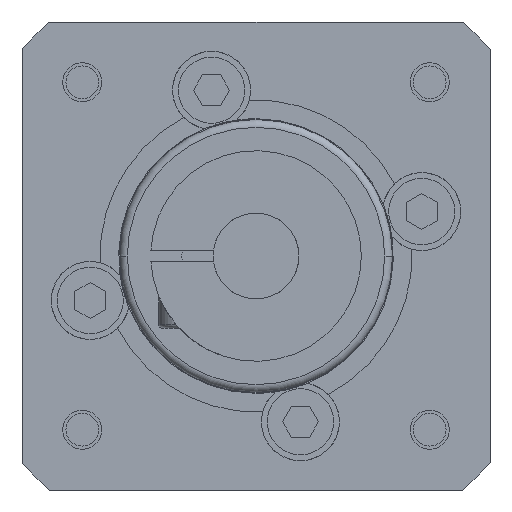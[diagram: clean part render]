
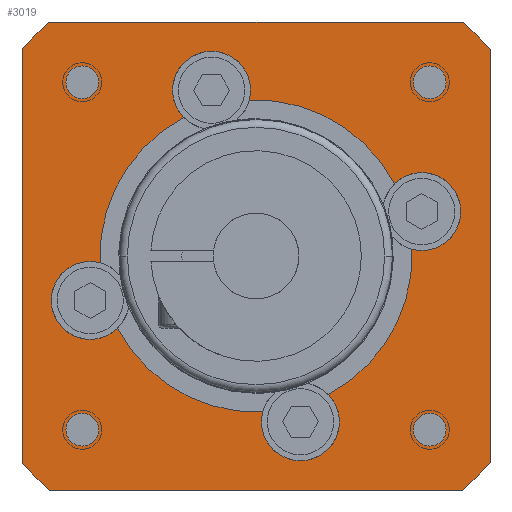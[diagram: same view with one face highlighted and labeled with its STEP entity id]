
A CAD part, left-side view. The second image highlights one B-rep face of the part: STEP entity #3019.
In plain terms, the highlighted planar face has unit normal (-1, 0, 0).
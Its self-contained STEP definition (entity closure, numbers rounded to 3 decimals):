
#23=CARTESIAN_POINT('',(0.,0.,0.));
#24=DIRECTION('',(-1.,0.,0.));
#25=DIRECTION('',(0.,-0.75,0.661));
#26=AXIS2_PLACEMENT_3D('',#23,#24,#25);
#28=DIRECTION('',(0.,0.,1.));
#29=VECTOR('',#28,52.915);
#30=CARTESIAN_POINT('',(0.,-30.,-26.458));
#31=LINE('',#30,#29);
#32=CARTESIAN_POINT('',(0.,0.,0.));
#33=DIRECTION('',(-1.,0.,0.));
#34=DIRECTION('',(0.,-0.661,-0.75));
#35=AXIS2_PLACEMENT_3D('',#32,#33,#34);
#37=DIRECTION('',(0.,-1.,0.));
#38=VECTOR('',#37,52.915);
#39=CARTESIAN_POINT('',(0.,26.458,-30.));
#40=LINE('',#39,#38);
#41=CARTESIAN_POINT('',(0.,0.,0.));
#42=DIRECTION('',(-1.,0.,0.));
#43=DIRECTION('',(0.,0.75,-0.661));
#44=AXIS2_PLACEMENT_3D('',#41,#42,#43);
#46=DIRECTION('',(0.,0.,-1.));
#47=VECTOR('',#46,52.915);
#48=CARTESIAN_POINT('',(0.,30.,26.458));
#49=LINE('',#48,#47);
#50=CARTESIAN_POINT('',(0.,0.,0.));
#51=DIRECTION('',(-1.,0.,0.));
#52=DIRECTION('',(0.,0.661,0.75));
#53=AXIS2_PLACEMENT_3D('',#50,#51,#52);
#55=DIRECTION('',(0.,1.,0.));
#56=VECTOR('',#55,52.915);
#57=CARTESIAN_POINT('',(0.,-26.458,30.));
#58=LINE('',#57,#56);
#59=CARTESIAN_POINT('',(0.,-22.274,22.274));
#60=DIRECTION('',(-1.,0.,0.));
#61=DIRECTION('',(0.,0.,-1.));
#62=AXIS2_PLACEMENT_3D('',#59,#60,#61);
#64=CARTESIAN_POINT('',(0.,-22.274,22.274));
#65=DIRECTION('',(-1.,0.,0.));
#66=DIRECTION('',(0.,0.,1.));
#67=AXIS2_PLACEMENT_3D('',#64,#65,#66);
#69=CARTESIAN_POINT('',(0.,-22.274,-22.274));
#70=DIRECTION('',(-1.,0.,0.));
#71=DIRECTION('',(0.,0.,-1.));
#72=AXIS2_PLACEMENT_3D('',#69,#70,#71);
#74=CARTESIAN_POINT('',(0.,-22.274,-22.274));
#75=DIRECTION('',(-1.,0.,0.));
#76=DIRECTION('',(0.,0.,1.));
#77=AXIS2_PLACEMENT_3D('',#74,#75,#76);
#79=CARTESIAN_POINT('',(0.,22.274,-22.274));
#80=DIRECTION('',(-1.,0.,0.));
#81=DIRECTION('',(0.,0.,-1.));
#82=AXIS2_PLACEMENT_3D('',#79,#80,#81);
#84=CARTESIAN_POINT('',(0.,22.274,-22.274));
#85=DIRECTION('',(-1.,0.,0.));
#86=DIRECTION('',(0.,0.,1.));
#87=AXIS2_PLACEMENT_3D('',#84,#85,#86);
#89=CARTESIAN_POINT('',(0.,22.274,22.274));
#90=DIRECTION('',(-1.,0.,0.));
#91=DIRECTION('',(0.,0.,-1.));
#92=AXIS2_PLACEMENT_3D('',#89,#90,#91);
#94=CARTESIAN_POINT('',(0.,22.274,22.274));
#95=DIRECTION('',(-1.,0.,0.));
#96=DIRECTION('',(0.,0.,1.));
#97=AXIS2_PLACEMENT_3D('',#94,#95,#96);
#99=CARTESIAN_POINT('',(0.,0.,0.));
#100=DIRECTION('',(1.,0.,0.));
#101=DIRECTION('',(0.,0.043,0.999));
#102=AXIS2_PLACEMENT_3D('',#99,#100,#101);
#104=CARTESIAN_POINT('',(0.,0.,0.));
#105=DIRECTION('',(1.,0.,0.));
#106=DIRECTION('',(0.,-0.043,-0.999));
#107=AXIS2_PLACEMENT_3D('',#104,#105,#106);
#1319=CARTESIAN_POINT('',(0.,-21.25,5.694));
#1320=DIRECTION('',(1.,0.,0.));
#1321=DIRECTION('',(0.,0.703,0.711));
#1322=AXIS2_PLACEMENT_3D('',#1319,#1320,#1321);
#1351=CARTESIAN_POINT('',(0.,0.,0.));
#1352=DIRECTION('',(1.,0.,0.));
#1353=DIRECTION('',(0.,-0.999,0.043));
#1354=AXIS2_PLACEMENT_3D('',#1351,#1352,#1353);
#1373=CARTESIAN_POINT('',(0.,0.,0.));
#1374=DIRECTION('',(1.,0.,0.));
#1375=DIRECTION('',(0.,0.999,-0.043));
#1376=AXIS2_PLACEMENT_3D('',#1373,#1374,#1375);
#1516=CARTESIAN_POINT('',(0.,-5.694,-21.25));
#1517=DIRECTION('',(1.,0.,0.));
#1518=DIRECTION('',(0.,-0.711,0.703));
#1519=AXIS2_PLACEMENT_3D('',#1516,#1517,#1518);
#1526=CARTESIAN_POINT('',(0.,21.25,-5.694));
#1527=DIRECTION('',(1.,0.,0.));
#1528=DIRECTION('',(0.,-0.703,-0.711));
#1529=AXIS2_PLACEMENT_3D('',#1526,#1527,#1528);
#1586=CARTESIAN_POINT('',(0.,5.694,21.25));
#1587=DIRECTION('',(1.,0.,0.));
#1588=DIRECTION('',(0.,0.711,-0.703));
#1589=AXIS2_PLACEMENT_3D('',#1586,#1587,#1588);
#2621=CARTESIAN_POINT('',(0.,-30.,26.458));
#2622=CARTESIAN_POINT('',(0.,-26.458,30.));
#2623=VERTEX_POINT('',#2621);
#2624=VERTEX_POINT('',#2622);
#2625=CARTESIAN_POINT('',(0.,26.458,30.));
#2626=VERTEX_POINT('',#2625);
#2627=CARTESIAN_POINT('',(0.,30.,26.458));
#2628=VERTEX_POINT('',#2627);
#2629=CARTESIAN_POINT('',(0.,30.,-26.458));
#2630=VERTEX_POINT('',#2629);
#2631=CARTESIAN_POINT('',(0.,26.458,-30.));
#2632=VERTEX_POINT('',#2631);
#2633=CARTESIAN_POINT('',(0.,-26.458,-30.));
#2634=VERTEX_POINT('',#2633);
#2635=CARTESIAN_POINT('',(0.,-30.,-26.458));
#2636=VERTEX_POINT('',#2635);
#2685=CARTESIAN_POINT('',(0.,-22.274,20.174));
#2686=CARTESIAN_POINT('',(0.,-22.274,24.374));
#2687=VERTEX_POINT('',#2685);
#2688=VERTEX_POINT('',#2686);
#2689=CARTESIAN_POINT('',(0.,-22.274,-24.374));
#2690=CARTESIAN_POINT('',(0.,-22.274,-20.174));
#2691=VERTEX_POINT('',#2689);
#2692=VERTEX_POINT('',#2690);
#2693=CARTESIAN_POINT('',(0.,22.274,-24.374));
#2694=CARTESIAN_POINT('',(0.,22.274,-20.174));
#2695=VERTEX_POINT('',#2693);
#2696=VERTEX_POINT('',#2694);
#2697=CARTESIAN_POINT('',(0.,22.274,20.174));
#2698=CARTESIAN_POINT('',(0.,22.274,24.374));
#2699=VERTEX_POINT('',#2697);
#2700=VERTEX_POINT('',#2698);
#2705=CARTESIAN_POINT('',(0.,-9.248,-17.733));
#2706=CARTESIAN_POINT('',(0.,-0.858,-19.982));
#2707=VERTEX_POINT('',#2705);
#2708=VERTEX_POINT('',#2706);
#2709=CARTESIAN_POINT('',(0.,9.248,17.733));
#2710=CARTESIAN_POINT('',(0.,0.858,19.982));
#2711=VERTEX_POINT('',#2709);
#2712=VERTEX_POINT('',#2710);
#2871=CARTESIAN_POINT('',(0.,17.733,-9.248));
#2873=VERTEX_POINT('',#2871);
#2875=CARTESIAN_POINT('',(0.,19.982,-0.858));
#2877=VERTEX_POINT('',#2875);
#2879=CARTESIAN_POINT('',(0.,-17.733,9.248));
#2881=VERTEX_POINT('',#2879);
#2883=CARTESIAN_POINT('',(0.,-19.982,0.858));
#2885=VERTEX_POINT('',#2883);
#2955=CARTESIAN_POINT('',(0.,0.,0.));
#2956=DIRECTION('',(-1.,0.,0.));
#2957=DIRECTION('',(0.,0.,-1.));
#2958=AXIS2_PLACEMENT_3D('',#2955,#2956,#2957);
#2959=PLANE('',#2958);
#2961=ORIENTED_EDGE('',*,*,#2960,.F.);
#2963=ORIENTED_EDGE('',*,*,#2962,.F.);
#2965=ORIENTED_EDGE('',*,*,#2964,.F.);
#2967=ORIENTED_EDGE('',*,*,#2966,.F.);
#2969=ORIENTED_EDGE('',*,*,#2968,.F.);
#2971=ORIENTED_EDGE('',*,*,#2970,.F.);
#2973=ORIENTED_EDGE('',*,*,#2972,.F.);
#2975=ORIENTED_EDGE('',*,*,#2974,.F.);
#2976=EDGE_LOOP('',(#2961,#2963,#2965,#2967,#2969,#2971,#2973,#2975));
#2977=FACE_OUTER_BOUND('',#2976,.F.);
#2978=ORIENTED_EDGE('',*,*,#2944,.T.);
#2980=ORIENTED_EDGE('',*,*,#2979,.T.);
#2981=EDGE_LOOP('',(#2978,#2980));
#2982=FACE_BOUND('',#2981,.F.);
#2984=ORIENTED_EDGE('',*,*,#2983,.T.);
#2986=ORIENTED_EDGE('',*,*,#2985,.T.);
#2987=EDGE_LOOP('',(#2984,#2986));
#2988=FACE_BOUND('',#2987,.F.);
#2990=ORIENTED_EDGE('',*,*,#2989,.T.);
#2992=ORIENTED_EDGE('',*,*,#2991,.T.);
#2993=EDGE_LOOP('',(#2990,#2992));
#2994=FACE_BOUND('',#2993,.F.);
#2996=ORIENTED_EDGE('',*,*,#2995,.T.);
#2998=ORIENTED_EDGE('',*,*,#2997,.T.);
#2999=EDGE_LOOP('',(#2996,#2998));
#3000=FACE_BOUND('',#2999,.F.);
#3002=ORIENTED_EDGE('',*,*,#3001,.F.);
#3004=ORIENTED_EDGE('',*,*,#3003,.F.);
#3006=ORIENTED_EDGE('',*,*,#3005,.F.);
#3008=ORIENTED_EDGE('',*,*,#3007,.F.);
#3010=ORIENTED_EDGE('',*,*,#3009,.F.);
#3012=ORIENTED_EDGE('',*,*,#3011,.F.);
#3014=ORIENTED_EDGE('',*,*,#3013,.F.);
#3016=ORIENTED_EDGE('',*,*,#3015,.F.);
#3017=EDGE_LOOP('',(#3002,#3004,#3006,#3008,#3010,#3012,#3014,#3016));
#3018=FACE_BOUND('',#3017,.F.);
#27=CIRCLE('',#26,40.);
#36=CIRCLE('',#35,40.);
#45=CIRCLE('',#44,40.);
#54=CIRCLE('',#53,40.);
#63=CIRCLE('',#62,2.1);
#68=CIRCLE('',#67,2.1);
#73=CIRCLE('',#72,2.1);
#78=CIRCLE('',#77,2.1);
#83=CIRCLE('',#82,2.1);
#88=CIRCLE('',#87,2.1);
#93=CIRCLE('',#92,2.1);
#98=CIRCLE('',#97,2.1);
#103=CIRCLE('',#102,20.);
#108=CIRCLE('',#107,20.);
#1323=CIRCLE('',#1322,5.);
#1355=CIRCLE('',#1354,20.);
#1377=CIRCLE('',#1376,20.);
#1520=CIRCLE('',#1519,5.);
#1530=CIRCLE('',#1529,5.);
#1590=CIRCLE('',#1589,5.);
#2944=EDGE_CURVE('',#2687,#2688,#63,.T.);
#2960=EDGE_CURVE('',#2623,#2624,#27,.T.);
#2962=EDGE_CURVE('',#2636,#2623,#31,.T.);
#2964=EDGE_CURVE('',#2634,#2636,#36,.T.);
#2966=EDGE_CURVE('',#2632,#2634,#40,.T.);
#2968=EDGE_CURVE('',#2630,#2632,#45,.T.);
#2970=EDGE_CURVE('',#2628,#2630,#49,.T.);
#2972=EDGE_CURVE('',#2626,#2628,#54,.T.);
#2974=EDGE_CURVE('',#2624,#2626,#58,.T.);
#2979=EDGE_CURVE('',#2688,#2687,#68,.T.);
#2983=EDGE_CURVE('',#2691,#2692,#73,.T.);
#2985=EDGE_CURVE('',#2692,#2691,#78,.T.);
#2989=EDGE_CURVE('',#2695,#2696,#83,.T.);
#2991=EDGE_CURVE('',#2696,#2695,#88,.T.);
#2995=EDGE_CURVE('',#2699,#2700,#93,.T.);
#2997=EDGE_CURVE('',#2700,#2699,#98,.T.);
#3001=EDGE_CURVE('',#2881,#2885,#1323,.T.);
#3003=EDGE_CURVE('',#2712,#2881,#103,.T.);
#3005=EDGE_CURVE('',#2711,#2712,#1590,.T.);
#3007=EDGE_CURVE('',#2877,#2711,#1377,.T.);
#3009=EDGE_CURVE('',#2873,#2877,#1530,.T.);
#3011=EDGE_CURVE('',#2708,#2873,#108,.T.);
#3013=EDGE_CURVE('',#2707,#2708,#1520,.T.);
#3015=EDGE_CURVE('',#2885,#2707,#1355,.T.);
#3019=ADVANCED_FACE('',(#2977,#2982,#2988,#2994,#3000,#3018),#2959,.T.);
